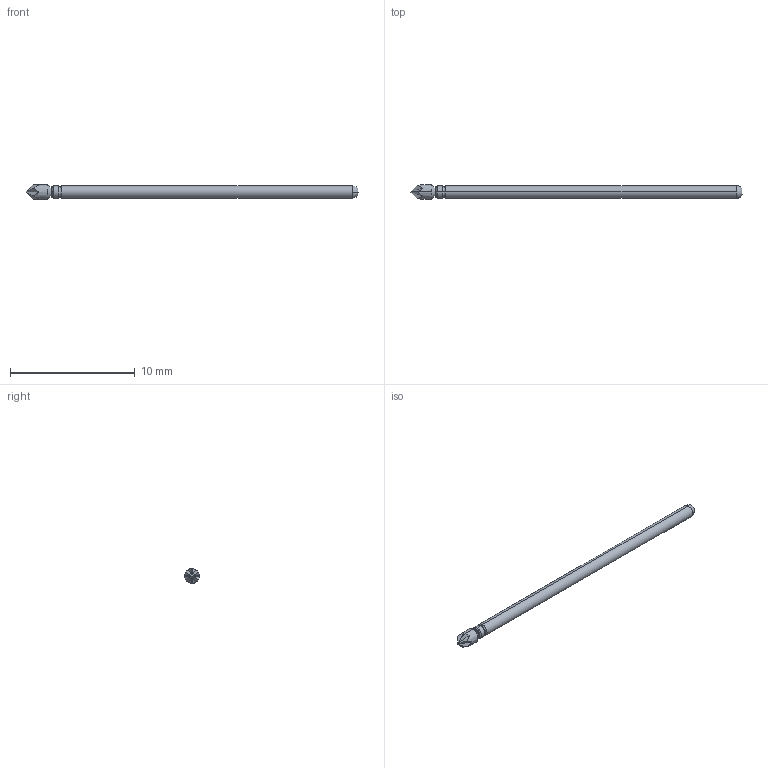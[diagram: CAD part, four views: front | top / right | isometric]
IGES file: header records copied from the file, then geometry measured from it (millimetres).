
Start section: SolidWorks IGES file using analytic representation for surfaces
Global section: file name: Z:\probe solid model mockups\Solidworks models\Parts\LFRE-1P FULL.IGS; native system: SolidWorks 2016; preprocessor: SolidWorks 2016; author: mlee; date: 180927.163738; units: inch
Bounding box: 26.66 x 1.19 x 1.19 mm (x, y, z)
Surface area: 86.3 mm2 (no closed solid volume)
Topology: 0 solids, 0 shells, 32 faces, 194 edges, 194 vertices
Faces by surface type: bspline 18, revolution 14
